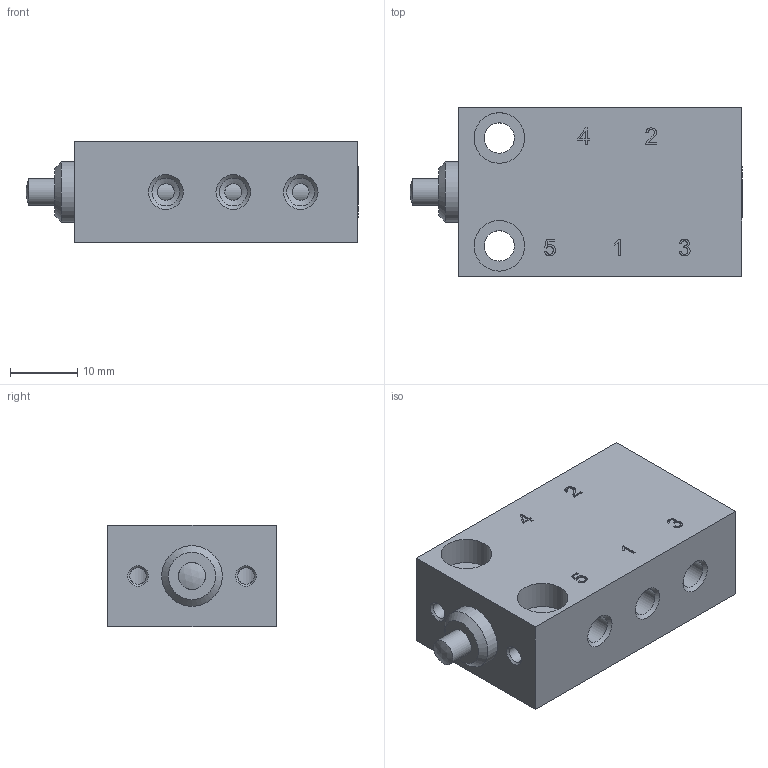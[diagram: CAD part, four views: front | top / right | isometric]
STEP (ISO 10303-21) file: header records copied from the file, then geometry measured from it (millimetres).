
FILE_DESCRIPTION(/* description */ ('Unknown','CAx-IF Rec.Pracs.---Representation and Presentation of Product Manufacturing Information (PMI)---4.0---2014-10-13','CAx-IF Rec.Pracs.---3D Tessellated Geometry---0.4---2014-09-14','2;1'),/* implementation_level */ '2;1');
FILE_NAME(/* name */ 'BV 511 201',/* time_stamp */ '2020-07-03T14:09:57+02:00',/* author */ ('Unknown'),/* organization */ ('Unknown'),/* preprocessor_version */ 'ST-DEVELOPER v16.7',/* originating_system */ 'DEX',/* authorisation */ $);
FILE_SCHEMA (('AP242_MANAGED_MODEL_BASED_3D_ENGINEERING_MIM_LF { 1 0 10303 442 20130219 1 4 }'));
Length unit declared in the file: millimetre
Products named in the file (2): BV 511 201
Assembly tree (1 placements, depth 2):
  BV 511 201
    BV 511 201
Bounding box: 49.25 x 25 x 15 mm (x, y, z)
Volume: 12938.2 mm3; surface area: 7244.5 mm2
Topology: 4 solids, 4 shells, 181 faces, 448 edges, 295 vertices
Faces by surface type: plane 97, cylinder 39, cone 24, bspline 20, sphere 1
Full cylindrical faces by diameter (mm): 1 x1, 2.459 x2, 2.5 x5, 2.8 x2, 4 x3, 4.05 x1, 4.134 x10, 4.5 x2, 5 x1, 6 x1, 7 x1, 7.5 x4, 8 x1, 8.06 x1, 8.08 x1, 9 x1
Entity records: 6887 total; most frequent: CARTESIAN_POINT 1941, ORIENTED_EDGE 720, DIRECTION 720, EDGE_CURVE 360, EDGE_LOOP 286, FACE_BOUND 286, VERTEX_POINT 268, AXIS2_PLACEMENT_3D 244
